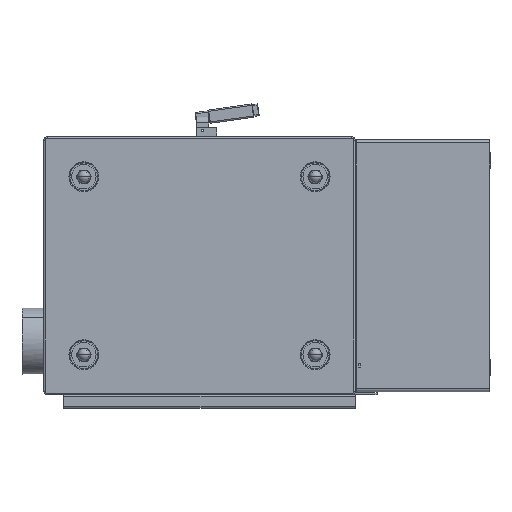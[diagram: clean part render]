
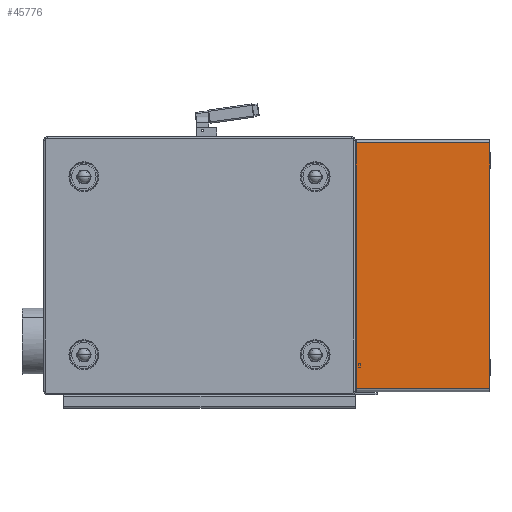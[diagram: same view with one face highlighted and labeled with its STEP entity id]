
A CAD part, left-side view. The second image highlights one B-rep face of the part: STEP entity #45776.
In plain terms, the highlighted planar face has unit normal (-1, 0, 0).
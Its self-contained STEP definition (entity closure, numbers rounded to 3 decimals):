
#150 = VECTOR ( 'NONE', #36971, 1000. ) ;
#3263 = CARTESIAN_POINT ( 'NONE',  ( -227., 299., -279. ) ) ;
#8392 = PLANE ( 'NONE',  #11738 ) ;
#8909 = FACE_OUTER_BOUND ( 'NONE', #91937, .T. ) ;
#11738 = AXIS2_PLACEMENT_3D ( 'NONE', #78146, #78476, #31854 ) ;
#12775 = LINE ( 'NONE', #3263, #49289 ) ;
#14110 = DIRECTION ( 'NONE',  ( 0., 1., 0. ) ) ;
#18373 = EDGE_CURVE ( 'NONE', #54870, #55298, #58890, .T. ) ;
#22892 = EDGE_CURVE ( 'NONE', #54870, #64975, #68596, .T. ) ;
#23387 = LINE ( 'NONE', #83655, #150 ) ;
#24438 = CARTESIAN_POINT ( 'NONE',  ( -227., -1., -276. ) ) ;
#28958 = ORIENTED_EDGE ( 'NONE', *, *, #30195, .T. ) ;
#30195 = EDGE_CURVE ( 'NONE', #64975, #99601, #12775, .T. ) ;
#31854 = DIRECTION ( 'NONE',  ( 0., 0., -1. ) ) ;
#32632 = ORIENTED_EDGE ( 'NONE', *, *, #22892, .T. ) ;
#33431 = ORIENTED_EDGE ( 'NONE', *, *, #18373, .F. ) ;
#34379 = CARTESIAN_POINT ( 'NONE',  ( -227., -1., 276. ) ) ;
#35571 = CARTESIAN_POINT ( 'NONE',  ( -227., -1., -279. ) ) ;
#36971 = DIRECTION ( 'NONE',  ( 0., 1., 0. ) ) ;
#45081 = CARTESIAN_POINT ( 'NONE',  ( -227., -1., 276. ) ) ;
#45776 = ADVANCED_FACE ( 'NONE', ( #8909 ), #8392, .F. ) ;
#47894 = VECTOR ( 'NONE', #14110, 1000. ) ;
#49289 = VECTOR ( 'NONE', #89070, 1000. ) ;
#54870 = VERTEX_POINT ( 'NONE', #34379 ) ;
#55298 = VERTEX_POINT ( 'NONE', #24438 ) ;
#56737 = CARTESIAN_POINT ( 'NONE',  ( -227., 299., -276. ) ) ;
#58890 = LINE ( 'NONE', #35571, #97891 ) ;
#64975 = VERTEX_POINT ( 'NONE', #70426 ) ;
#68596 = LINE ( 'NONE', #45081, #47894 ) ;
#70426 = CARTESIAN_POINT ( 'NONE',  ( -227., 299., 276. ) ) ;
#78146 = CARTESIAN_POINT ( 'NONE',  ( -227., -1., -279. ) ) ;
#78476 = DIRECTION ( 'NONE',  ( 1., 0., 0. ) ) ;
#83655 = CARTESIAN_POINT ( 'NONE',  ( -227., -1., -276. ) ) ;
#89070 = DIRECTION ( 'NONE',  ( 0., 0., -1. ) ) ;
#91937 = EDGE_LOOP ( 'NONE', ( #28958, #100552, #33431, #32632 ) ) ;
#96978 = EDGE_CURVE ( 'NONE', #55298, #99601, #23387, .T. ) ;
#97884 = DIRECTION ( 'NONE',  ( 0., 0., -1. ) ) ;
#97891 = VECTOR ( 'NONE', #97884, 1000. ) ;
#99601 = VERTEX_POINT ( 'NONE', #56737 ) ;
#100552 = ORIENTED_EDGE ( 'NONE', *, *, #96978, .F. ) ;
